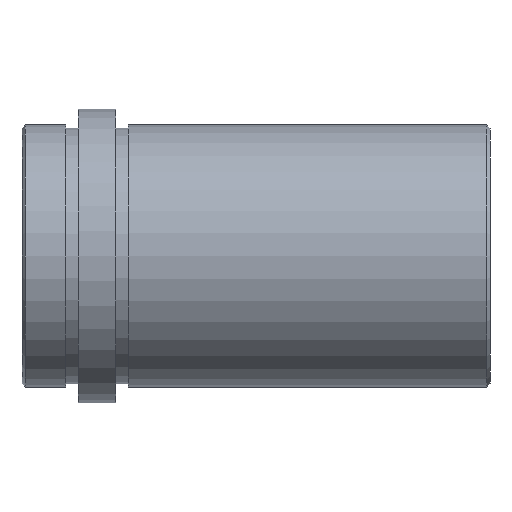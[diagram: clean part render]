
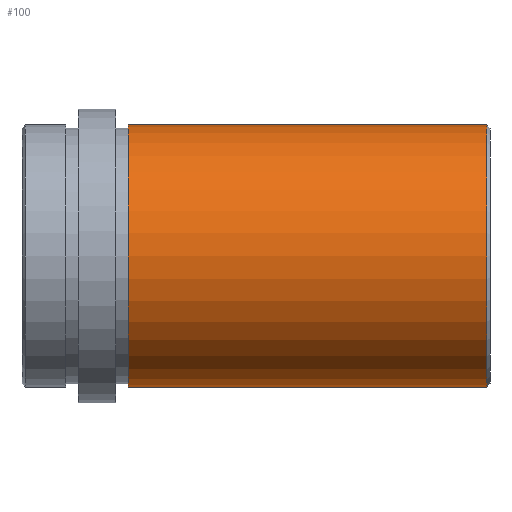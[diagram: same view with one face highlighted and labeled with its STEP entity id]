
A CAD part, front view. The second image highlights one B-rep face of the part: STEP entity #100.
In plain terms, the highlighted face is a revolution surface.
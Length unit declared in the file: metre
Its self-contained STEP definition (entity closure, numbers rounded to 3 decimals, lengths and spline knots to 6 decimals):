
#100 = ADVANCED_FACE( '', ( #157 ), #158, .F. );
#157 = FACE_OUTER_BOUND( '', #250, .T. );
#158 = SURFACE_OF_REVOLUTION( '', #251, #252 );
#250 = EDGE_LOOP( '', ( #419, #420, #421, #422 ) );
#251 = B_SPLINE_CURVE_WITH_KNOTS( '', 1, ( #423, #424 ), .UNSPECIFIED., .F., .F., ( 2, 2 ), ( -10000., 10000. ), .UNSPECIFIED. );
#252 = AXIS1_PLACEMENT( '', #425, #426 );
#419 = ORIENTED_EDGE( '', *, *, #492, .T. );
#420 = ORIENTED_EDGE( '', *, *, #490, .T. );
#421 = ORIENTED_EDGE( '', *, *, #445, .F. );
#422 = ORIENTED_EDGE( '', *, *, #489, .T. );
#423 = CARTESIAN_POINT( '', ( 10000.0745, 0., 0.021 ) );
#424 = CARTESIAN_POINT( '', ( -9999.9255, 0., 0.021 ) );
#425 = CARTESIAN_POINT( '', ( 0., 0., 0. ) );
#426 = DIRECTION( '', ( 1., 0., 0. ) );
#445 = EDGE_CURVE( '', #499, #500, #501, .T. );
#489 = EDGE_CURVE( '', #499, #571, #572, .F. );
#490 = EDGE_CURVE( '', #573, #500, #574, .T. );
#492 = EDGE_CURVE( '', #571, #573, #576, .T. );
#499 = VERTEX_POINT( '', #583 );
#500 = VERTEX_POINT( '', #584 );
#501 = CIRCLE( '', #585, 0.021 );
#571 = VERTEX_POINT( '', #671 );
#572 = LINE( '', #672, #673 );
#573 = VERTEX_POINT( '', #674 );
#574 = LINE( '', #675, #676 );
#576 = CIRCLE( '', #678, 0.021 );
#583 = CARTESIAN_POINT( '', ( 0.017, 0., -0.021 ) );
#584 = CARTESIAN_POINT( '', ( 0.017, 0., 0.021 ) );
#585 = AXIS2_PLACEMENT_3D( '', #689, #690, #691 );
#671 = CARTESIAN_POINT( '', ( 0.0745, 0., -0.021 ) );
#672 = CARTESIAN_POINT( '', ( 0.0745, 0., -0.021 ) );
#673 = VECTOR( '', #789, 1. );
#674 = CARTESIAN_POINT( '', ( 0.0745, 0., 0.021 ) );
#675 = CARTESIAN_POINT( '', ( 0.0745, 0., 0.021 ) );
#676 = VECTOR( '', #790, 1. );
#678 = AXIS2_PLACEMENT_3D( '', #794, #795, #796 );
#689 = CARTESIAN_POINT( '', ( 0.017, 0., 0. ) );
#690 = DIRECTION( '', ( -1., 0., 0. ) );
#691 = DIRECTION( '', ( 0., 0., 1. ) );
#789 = DIRECTION( '', ( -1., 0., 0. ) );
#790 = DIRECTION( '', ( -1., 0., 0. ) );
#794 = CARTESIAN_POINT( '', ( 0.0745, 0., 0. ) );
#795 = DIRECTION( '', ( -1., 0., 0. ) );
#796 = DIRECTION( '', ( 0., 0., 1. ) );
